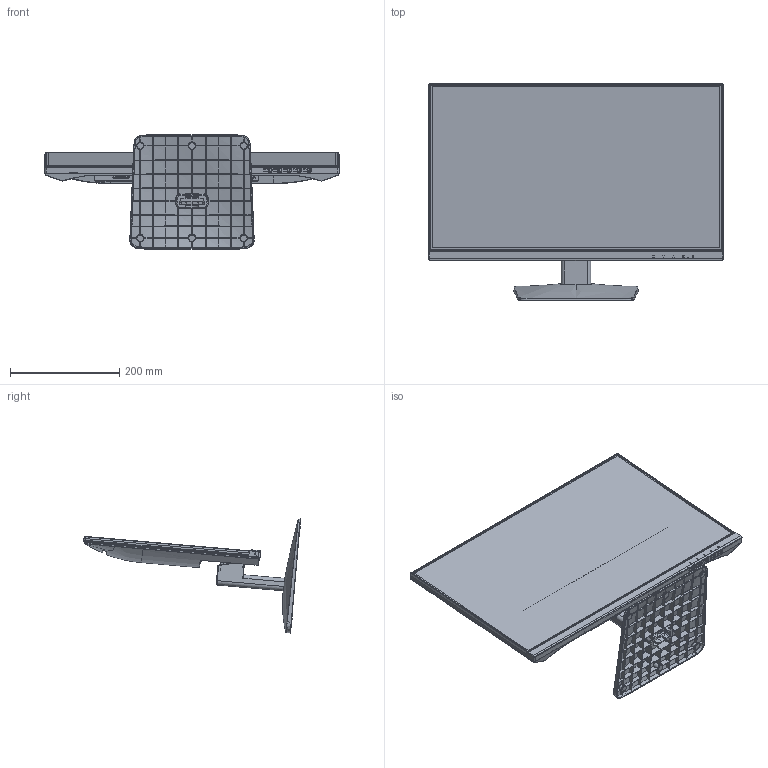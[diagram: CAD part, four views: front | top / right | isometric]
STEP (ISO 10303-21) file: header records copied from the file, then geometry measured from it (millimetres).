
FILE_DESCRIPTION (( 'STEP AP214' ), '1' );
FILE_NAME ('Planar PXN2400.STEP', '2020-09-11T19:59:26', ( '' ), ( '' ), 'SwSTEP 2.0', 'SolidWorks 2019', '' );
FILE_SCHEMA (( 'AUTOMOTIVE_DESIGN' ));
Length unit declared in the file: millimetre
Products named in the file (1): Planar PXN2400
Bounding box: 539.54 x 397.97 x 209.11 mm (x, y, z)
Volume: 956666.3 mm3; surface area: 1153224 mm2
Topology: 25 solids, 27 shells, 8386 faces, 24043 edges, 15649 vertices
Faces by surface type: plane 5759, cylinder 1718, bspline 775, cone 114, torus 20
Entity records: 424506 total; most frequent: CARTESIAN_POINT 131338, ORIENTED_EDGE 48018, DIRECTION 32221, EDGE_CURVE 24009, VERTEX_POINT 15649, LINE 13215, VECTOR 13215, AXIS2_PLACEMENT_3D 9503
